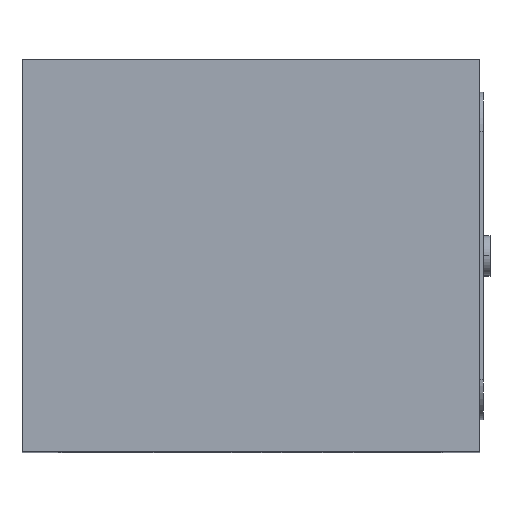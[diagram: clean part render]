
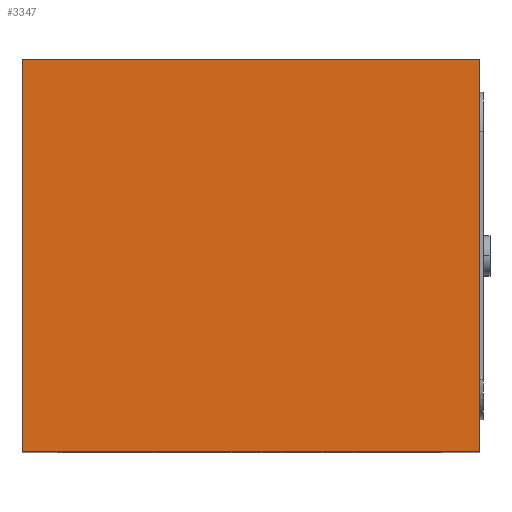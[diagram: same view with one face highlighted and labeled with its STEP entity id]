
A CAD part, top view. The second image highlights one B-rep face of the part: STEP entity #3347.
In plain terms, the highlighted planar face has unit normal (0, 0, 1).
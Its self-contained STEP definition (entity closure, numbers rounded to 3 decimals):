
#223=DIRECTION('',(-1.,0.,0.));
#224=VECTOR('',#223,35.);
#225=CARTESIAN_POINT('',(35.,0.,54.));
#226=LINE('',#225,#224);
#227=DIRECTION('',(0.,1.,0.));
#228=VECTOR('',#227,30.);
#229=CARTESIAN_POINT('',(0.,0.,54.));
#230=LINE('',#229,#228);
#231=DIRECTION('',(1.,0.,0.));
#232=VECTOR('',#231,35.);
#233=CARTESIAN_POINT('',(0.,30.,54.));
#234=LINE('',#233,#232);
#235=DIRECTION('',(0.,-1.,0.));
#236=VECTOR('',#235,30.);
#237=CARTESIAN_POINT('',(35.,30.,54.));
#238=LINE('',#237,#236);
#2555=CARTESIAN_POINT('',(0.,0.,54.));
#2556=VERTEX_POINT('',#2555);
#2557=CARTESIAN_POINT('',(35.,0.,54.));
#2558=VERTEX_POINT('',#2557);
#2591=CARTESIAN_POINT('',(0.,30.,54.));
#2592=VERTEX_POINT('',#2591);
#2593=CARTESIAN_POINT('',(35.,30.,54.));
#2594=VERTEX_POINT('',#2593);
#3336=CARTESIAN_POINT('',(0.,0.,54.));
#3337=DIRECTION('',(0.,0.,1.));
#3338=DIRECTION('',(1.,0.,0.));
#3339=AXIS2_PLACEMENT_3D('',#3336,#3337,#3338);
#3340=PLANE('',#3339);
#3341=ORIENTED_EDGE('',*,*,#3174,.T.);
#3342=ORIENTED_EDGE('',*,*,#3237,.T.);
#3343=ORIENTED_EDGE('',*,*,#3251,.T.);
#3344=ORIENTED_EDGE('',*,*,#3312,.T.);
#3345=EDGE_LOOP('',(#3341,#3342,#3343,#3344));
#3346=FACE_OUTER_BOUND('',#3345,.F.);
#3174=EDGE_CURVE('',#2558,#2556,#226,.T.);
#3237=EDGE_CURVE('',#2556,#2592,#230,.T.);
#3251=EDGE_CURVE('',#2592,#2594,#234,.T.);
#3312=EDGE_CURVE('',#2594,#2558,#238,.T.);
#3347=ADVANCED_FACE('',(#3346),#3340,.T.);
